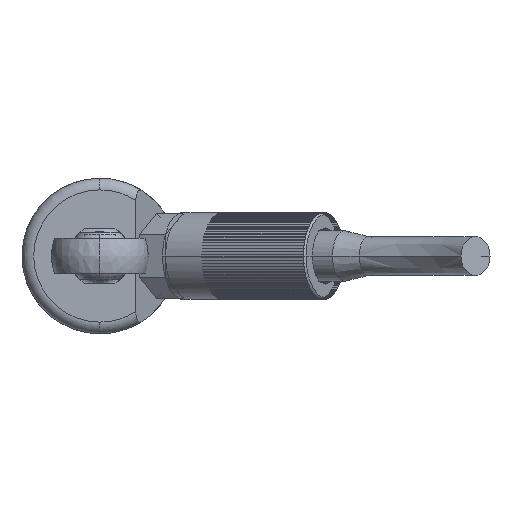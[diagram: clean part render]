
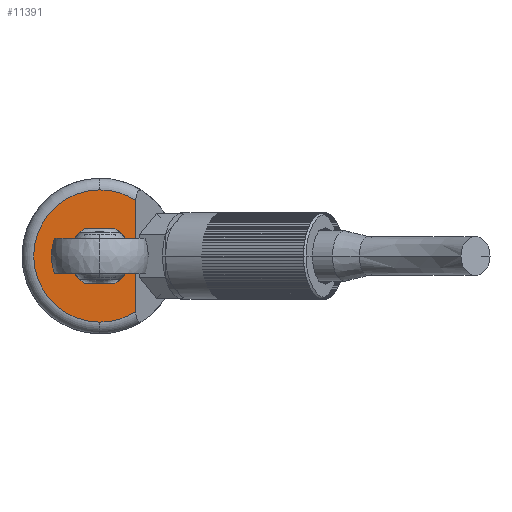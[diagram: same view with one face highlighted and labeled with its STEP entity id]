
A CAD part, left-side view. The second image highlights one B-rep face of the part: STEP entity #11391.
In plain terms, the highlighted planar face has unit normal (-1, 0, 0).
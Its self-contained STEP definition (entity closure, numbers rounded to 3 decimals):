
#11 = DIRECTION ( 'NONE',  ( 0., 0., -1. ) ) ;
#173 = ORIENTED_EDGE ( 'NONE', *, *, #8639, .T. ) ;
#331 = CIRCLE ( 'NONE', #12157, 3.4 ) ;
#432 = FACE_OUTER_BOUND ( 'NONE', #6273, .T. ) ;
#799 = ORIENTED_EDGE ( 'NONE', *, *, #3477, .T. ) ;
#848 = AXIS2_PLACEMENT_3D ( 'NONE', #5439, #12247, #1461 ) ;
#849 = EDGE_CURVE ( 'NONE', #9957, #11834, #11270, .T. ) ;
#909 = ORIENTED_EDGE ( 'NONE', *, *, #3181, .T. ) ;
#1461 = DIRECTION ( 'NONE',  ( 0., 0., -1. ) ) ;
#1816 = CARTESIAN_POINT ( 'NONE',  ( -69.98, 0., -17. ) ) ;
#1990 = AXIS2_PLACEMENT_3D ( 'NONE', #5947, #9885, #11 ) ;
#2044 = CARTESIAN_POINT ( 'NONE',  ( -69.98, 0., 0. ) ) ;
#2417 = VERTEX_POINT ( 'NONE', #12372 ) ;
#2434 = LINE ( 'NONE', #10473, #3235 ) ;
#2729 = ORIENTED_EDGE ( 'NONE', *, *, #849, .T. ) ;
#2874 = CIRCLE ( 'NONE', #10133, 17. ) ;
#3124 = EDGE_LOOP ( 'NONE', ( #12037, #799 ) ) ;
#3181 = EDGE_CURVE ( 'NONE', #3289, #9957, #2434, .T. ) ;
#3233 = EDGE_CURVE ( 'NONE', #10951, #2417, #331, .T. ) ;
#3235 = VECTOR ( 'NONE', #4578, 1000. ) ;
#3276 = DIRECTION ( 'NONE',  ( 0., 0., -1. ) ) ;
#3289 = VERTEX_POINT ( 'NONE', #3726 ) ;
#3410 = DIRECTION ( 'NONE',  ( 1., 0., 0. ) ) ;
#3477 = EDGE_CURVE ( 'NONE', #2417, #10951, #7587, .T. ) ;
#3726 = CARTESIAN_POINT ( 'NONE',  ( -69.98, -9.26, -14.257 ) ) ;
#4397 = PLANE ( 'NONE',  #6497 ) ;
#4453 = CARTESIAN_POINT ( 'NONE',  ( -69.98, 0., 0. ) ) ;
#4578 = DIRECTION ( 'NONE',  ( 0., 0., 1. ) ) ;
#4628 = CARTESIAN_POINT ( 'NONE',  ( -69.98, 0., 0. ) ) ;
#5239 = DIRECTION ( 'NONE',  ( -1., 0., 0. ) ) ;
#5439 = CARTESIAN_POINT ( 'NONE',  ( -69.98, 0., 0. ) ) ;
#5629 = DIRECTION ( 'NONE',  ( 1., 0., 0. ) ) ;
#5703 = CARTESIAN_POINT ( 'NONE',  ( -69.98, -9.26, 14.257 ) ) ;
#5855 = CIRCLE ( 'NONE', #848, 17. ) ;
#5947 = CARTESIAN_POINT ( 'NONE',  ( -69.98, 0., 0. ) ) ;
#6273 = EDGE_LOOP ( 'NONE', ( #2729, #8378, #173, #909 ) ) ;
#6497 = AXIS2_PLACEMENT_3D ( 'NONE', #12307, #3410, #8475 ) ;
#6597 = CARTESIAN_POINT ( 'NONE',  ( -69.98, 0., 17. ) ) ;
#6663 = DIRECTION ( 'NONE',  ( -1., 0., 0. ) ) ;
#7536 = AXIS2_PLACEMENT_3D ( 'NONE', #4628, #6663, #9679 ) ;
#7587 = CIRCLE ( 'NONE', #1990, 3.4 ) ;
#8378 = ORIENTED_EDGE ( 'NONE', *, *, #12664, .T. ) ;
#8475 = DIRECTION ( 'NONE',  ( 0., 0., -1. ) ) ;
#8639 = EDGE_CURVE ( 'NONE', #10339, #3289, #2874, .T. ) ;
#8971 = CARTESIAN_POINT ( 'NONE',  ( -69.98, 0., -3.4 ) ) ;
#9327 = FACE_BOUND ( 'NONE', #3124, .T. ) ;
#9624 = DIRECTION ( 'NONE',  ( 0., 0., -1. ) ) ;
#9679 = DIRECTION ( 'NONE',  ( 0., 0., -1. ) ) ;
#9885 = DIRECTION ( 'NONE',  ( 1., 0., 0. ) ) ;
#9957 = VERTEX_POINT ( 'NONE', #5703 ) ;
#10133 = AXIS2_PLACEMENT_3D ( 'NONE', #2044, #5239, #3276 ) ;
#10339 = VERTEX_POINT ( 'NONE', #1816 ) ;
#10473 = CARTESIAN_POINT ( 'NONE',  ( -69.98, -9.26, -20. ) ) ;
#10951 = VERTEX_POINT ( 'NONE', #8971 ) ;
#11270 = CIRCLE ( 'NONE', #7536, 17. ) ;
#11391 = ADVANCED_FACE ( 'NONE', ( #9327, #432 ), #4397, .F. ) ;
#11834 = VERTEX_POINT ( 'NONE', #6597 ) ;
#12037 = ORIENTED_EDGE ( 'NONE', *, *, #3233, .T. ) ;
#12157 = AXIS2_PLACEMENT_3D ( 'NONE', #4453, #5629, #9624 ) ;
#12247 = DIRECTION ( 'NONE',  ( -1., 0., 0. ) ) ;
#12307 = CARTESIAN_POINT ( 'NONE',  ( -69.98, 0., 0. ) ) ;
#12372 = CARTESIAN_POINT ( 'NONE',  ( -69.98, 0., 3.4 ) ) ;
#12664 = EDGE_CURVE ( 'NONE', #11834, #10339, #5855, .T. ) ;
